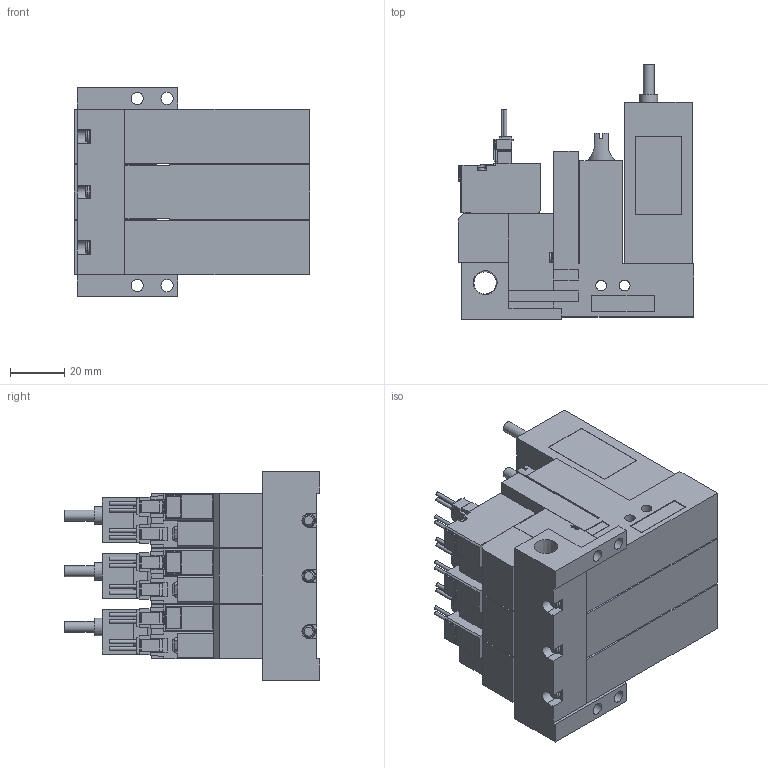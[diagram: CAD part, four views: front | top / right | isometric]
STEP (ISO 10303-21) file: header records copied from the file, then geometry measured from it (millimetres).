
FILE_DESCRIPTION(('STEP AP203'),'1');
FILE_NAME('VG_VGPL5ALR303.stp','2025-02-18T23:14:38',(' '),(' '),'Spatial InterOp 3D',' ',' ');
FILE_SCHEMA(('CONFIG_CONTROL_DESIGN'));
Length unit declared in the file: millimetre
Products named in the file (5): BMC22M※※※※VG_VGPL5ALR303; Solenoid valve A; Pressure sensor VGL; Unit L; Base MR30R
Assembly tree (10 placements, depth 2):
  BMC22M※※※※VG_VGPL5ALR303
    Solenoid valve A  x3
    Pressure sensor VGL  x3
    Unit L  x3
    Base MR30R
Bounding box: 86.6 x 94 x 77 mm (x, y, z)
Volume: 303611.5 mm3; surface area: 82509.6 mm2
Topology: 10 solids, 10 shells, 1158 faces, 3098 edges, 2047 vertices
Faces by surface type: plane 974, cylinder 152, cone 23, torus 9
Full cylindrical faces by diameter (mm): 1.4 x12, 2.5 x9, 3 x12, 3.5 x12, 3.6 x3, 4 x18, 4.134 x3, 4.5 x4, 5.2 x3, 6 x3, 6.5 x3, 6.6 x3, 8.279 x1
Entity records: 13320 total; most frequent: CARTESIAN_POINT 2470, ORIENTED_EDGE 2122, DIRECTION 2119, EDGE_CURVE 1061, LINE 879, VECTOR 879, VERTEX_POINT 736, AXIS2_PLACEMENT_3D 620
